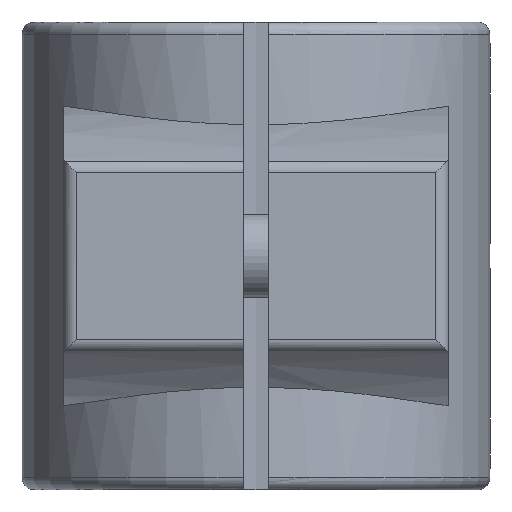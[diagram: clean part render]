
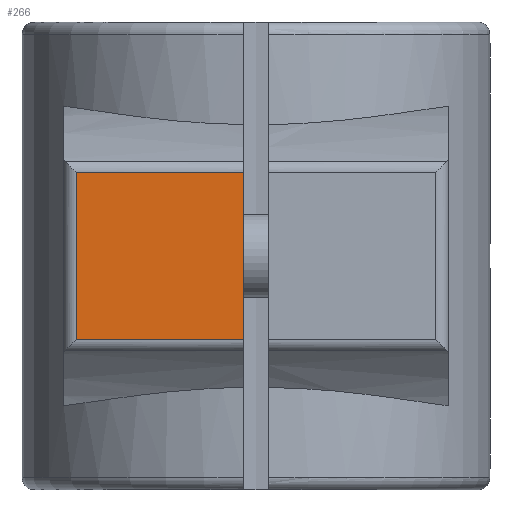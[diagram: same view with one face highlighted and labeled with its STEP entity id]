
A CAD part, left-side view. The second image highlights one B-rep face of the part: STEP entity #266.
In plain terms, the highlighted planar face has unit normal (-1, 0, 0).
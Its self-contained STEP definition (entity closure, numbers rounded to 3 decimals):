
#266 = ADVANCED_FACE( '', ( #599 ), #600, .F. );
#599 = FACE_OUTER_BOUND( '', #1000, .T. );
#600 = PLANE( '', #1001 );
#1000 = EDGE_LOOP( '', ( #1735, #1736, #1737, #1738 ) );
#1001 = AXIS2_PLACEMENT_3D( '', #1739, #1740, #1741 );
#1735 = ORIENTED_EDGE( '', *, *, #2531, .F. );
#1736 = ORIENTED_EDGE( '', *, *, #2532, .F. );
#1737 = ORIENTED_EDGE( '', *, *, #2473, .T. );
#1738 = ORIENTED_EDGE( '', *, *, #2385, .T. );
#1739 = CARTESIAN_POINT( '', ( -40., 23., -10. ) );
#1740 = DIRECTION( '', ( 1., 0., 0. ) );
#1741 = DIRECTION( '', ( 0., 0., -1. ) );
#2385 = EDGE_CURVE( '', #2892, #2890, #2893, .T. );
#2473 = EDGE_CURVE( '', #3033, #2892, #3034, .T. );
#2531 = EDGE_CURVE( '', #3112, #2890, #3113, .T. );
#2532 = EDGE_CURVE( '', #3033, #3112, #3114, .T. );
#2890 = VERTEX_POINT( '', #3846 );
#2892 = VERTEX_POINT( '', #3848 );
#2893 = LINE( '', #3849, #3850 );
#3033 = VERTEX_POINT( '', #4238 );
#3034 = LINE( '', #4239, #4240 );
#3112 = VERTEX_POINT( '', #4408 );
#3113 = LINE( '', #4409, #4410 );
#3114 = LINE( '', #4411, #4412 );
#3846 = CARTESIAN_POINT( '', ( -40., 1.5, -10. ) );
#3848 = CARTESIAN_POINT( '', ( -40., 21.5, -10. ) );
#3849 = CARTESIAN_POINT( '', ( -40., 23., -10. ) );
#3850 = VECTOR( '', #4833, 1000. );
#4238 = CARTESIAN_POINT( '', ( -40., 21.5, 10. ) );
#4239 = CARTESIAN_POINT( '', ( -40., 21.5, 23. ) );
#4240 = VECTOR( '', #4907, 1000. );
#4408 = CARTESIAN_POINT( '', ( -40., 1.5, 10. ) );
#4409 = CARTESIAN_POINT( '', ( -40., 1.5, 28. ) );
#4410 = VECTOR( '', #4960, 1000. );
#4411 = CARTESIAN_POINT( '', ( -40., 23., 10. ) );
#4412 = VECTOR( '', #4961, 1000. );
#4833 = DIRECTION( '', ( 0., -1., 0. ) );
#4907 = DIRECTION( '', ( 0., 0., -1. ) );
#4960 = DIRECTION( '', ( 0., 0., -1. ) );
#4961 = DIRECTION( '', ( 0., -1., 0. ) );
